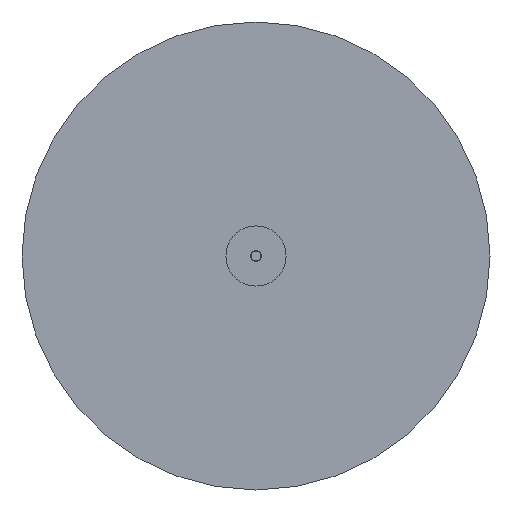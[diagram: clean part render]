
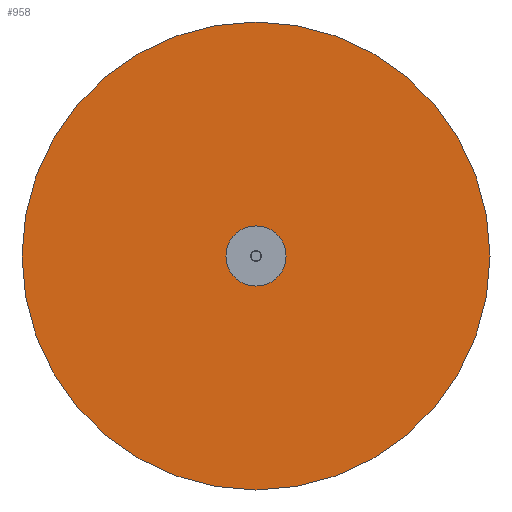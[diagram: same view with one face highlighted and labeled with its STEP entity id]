
A CAD part, front view. The second image highlights one B-rep face of the part: STEP entity #958.
In plain terms, the highlighted planar face has unit normal (0, -1, 0).
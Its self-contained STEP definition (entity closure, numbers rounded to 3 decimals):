
#578=CARTESIAN_POINT('',(70.,-27.5,0.0));
#579=VERTEX_POINT('',#578);
#595=CARTESIAN_POINT('',(-70.,-27.5,0.));
#596=VERTEX_POINT('',#595);
#603=CARTESIAN_POINT('',(0.0,-27.5,0.0));
#604=DIRECTION('',(0.0,-1.0,0.0));
#605=DIRECTION('',(1.0,0.0,0.0));
#606=AXIS2_PLACEMENT_3D('',#603,#604,#605);
#607=CIRCLE('',#606,70.);
#608=EDGE_CURVE('',#579,#596,#607,.T.);
#712=CARTESIAN_POINT('',(9.,-27.5,0.0));
#713=VERTEX_POINT('',#712);
#738=CARTESIAN_POINT('',(-9.,-27.5,0.));
#739=VERTEX_POINT('',#738);
#746=CARTESIAN_POINT('',(0.0,-27.5,0.0));
#747=DIRECTION('',(0.0,-1.0,0.0));
#748=DIRECTION('',(1.0,0.0,0.0));
#749=AXIS2_PLACEMENT_3D('',#746,#747,#748);
#750=CIRCLE('',#749,9.);
#751=EDGE_CURVE('',#739,#713,#750,.T.);
#830=CARTESIAN_POINT('',(0.0,-27.5,0.0));
#831=DIRECTION('',(0.0,-1.0,0.0));
#832=DIRECTION('',(1.0,0.0,0.0));
#833=AXIS2_PLACEMENT_3D('',#830,#831,#832);
#834=CIRCLE('',#833,9.);
#835=EDGE_CURVE('',#713,#739,#834,.T.);
#933=CARTESIAN_POINT('',(0.0,-27.5,0.0));
#934=DIRECTION('',(0.0,-1.0,0.0));
#935=DIRECTION('',(1.0,0.0,0.0));
#936=AXIS2_PLACEMENT_3D('',#933,#934,#935);
#937=CIRCLE('',#936,70.);
#938=EDGE_CURVE('',#596,#579,#937,.T.);
#945=CARTESIAN_POINT('',(39.5,-27.5,0.0));
#946=DIRECTION('',(0.0,-1.0,0.0));
#947=DIRECTION('',(0.0,0.0,-1.0));
#948=AXIS2_PLACEMENT_3D('',#945,#946,#947);
#949=PLANE('',#948);
#950=ORIENTED_EDGE('',*,*,#608,.T.);
#951=ORIENTED_EDGE('',*,*,#938,.T.);
#952=EDGE_LOOP('',(#950,#951));
#953=FACE_OUTER_BOUND('',#952,.T.);
#954=ORIENTED_EDGE('',*,*,#835,.F.);
#955=ORIENTED_EDGE('',*,*,#751,.F.);
#956=EDGE_LOOP('',(#954,#955));
#957=FACE_BOUND('',#956,.T.);
#958=ADVANCED_FACE('',(#953,#957),#949,.T.);
